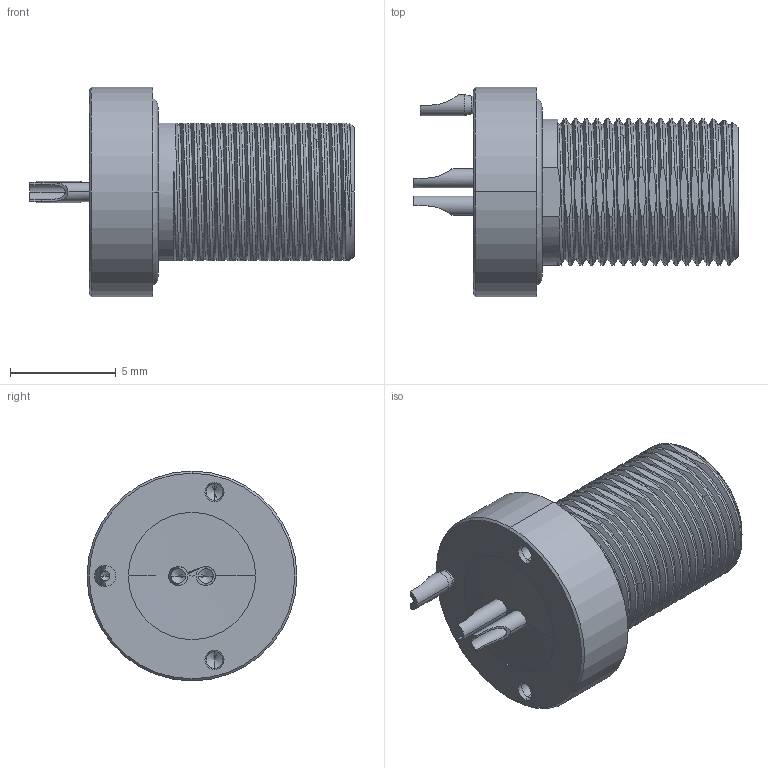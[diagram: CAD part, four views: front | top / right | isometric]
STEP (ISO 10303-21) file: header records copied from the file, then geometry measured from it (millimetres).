
FILE_DESCRIPTION((''),'2;1');
FILE_NAME('00160089--_ASM','2020-10-28T14:48:07',('EUnterhaslberger'),(''),'CREO PARAMETRIC BY PTC INC, 2018300','CREO PARAMETRIC BY PTC INC, 2018300','');
FILE_SCHEMA(('AP242_MANAGED_MODEL_BASED_3D_ENGINEERING_MIM_LF { 1 0 10303 442 1 1 4 }'));
Length unit declared in the file: millimetre
Products named in the file (4): TEMP_SW_STEP_MONOBLOCK_1_1; TEMP_SW_STEP_MONOBLOCK_1_2; TEMP_SW_STEP_MONOBLOCK_1_ASM; 00160089--_ASM
Assembly tree (3 placements, depth 3):
  00160089--_ASM
    TEMP_SW_STEP_MONOBLOCK_1_ASM
      TEMP_SW_STEP_MONOBLOCK_1_1
      TEMP_SW_STEP_MONOBLOCK_1_2
Bounding box: 15.3 x 9.9 x 9.9 mm (x, y, z)
Volume: 437.3 mm3; surface area: 853.3 mm2
Topology: 2 solids, 2 shells, 238 faces, 642 edges, 410 vertices
Faces by surface type: plane 82, cylinder 81, cone 32, bspline 21, torus 19, sphere 3
Entity records: 22158 total; most frequent: CARTESIAN_POINT 14646, ORIENTED_EDGE 1260, DIRECTION 1034, EDGE_CURVE 630, VERTEX_POINT 410, AXIS2_PLACEMENT_3D 402, EDGE_LOOP 254, FILL_AREA_STYLE_COLOUR 239
